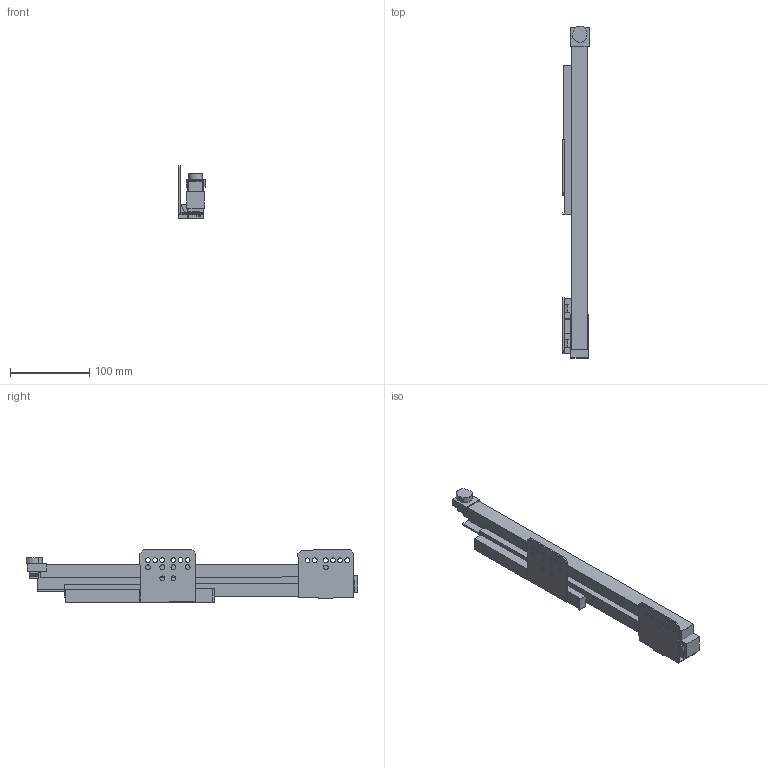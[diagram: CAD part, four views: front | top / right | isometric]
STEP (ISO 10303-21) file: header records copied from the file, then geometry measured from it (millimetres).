
FILE_DESCRIPTION (( 'STEP AP214' ), '1' );
FILE_NAME ('_IMOS Dynamic-XP VA 60kg NL400 LI Tipmatic.step', '2010-07-08T13:26:51', ( 'grass' ), ( '' ), 'SwSTEP 2.0', 'SolidWorks 2010', '' );
FILE_SCHEMA (( 'AUTOMOTIVE_DESIGN' ));
Length unit declared in the file: millimetre
Products named in the file (1): _IMOS Dynamic-XP VA 60kg NL400 LI Tipmatic
Bounding box: 33.14 x 418.02 x 66.67 mm (x, y, z)
Volume: 387552.4 mm3; surface area: 143201 mm2
Topology: 8 solids, 8 shells, 184 faces, 496 edges, 330 vertices
Faces by surface type: plane 137, cylinder 47
Entity records: 5917 total; most frequent: CARTESIAN_POINT 1011, ORIENTED_EDGE 992, DIRECTION 962, EDGE_CURVE 496, LINE 400, VECTOR 400, VERTEX_POINT 330, AXIS2_PLACEMENT_3D 281
